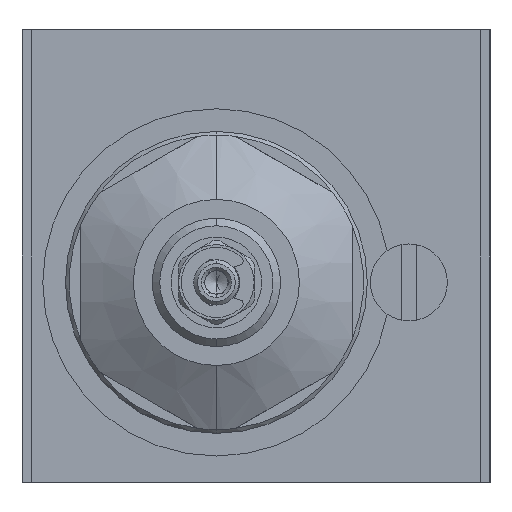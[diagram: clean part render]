
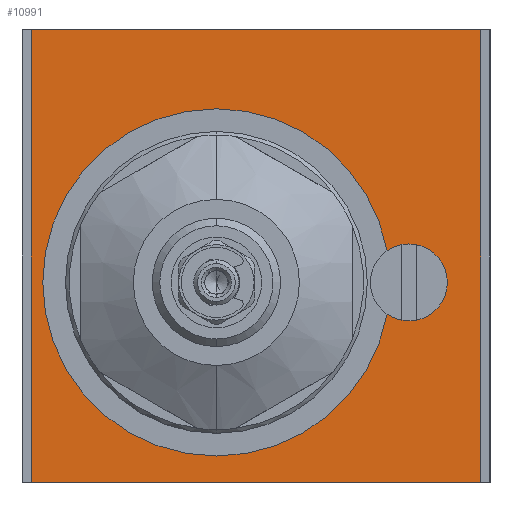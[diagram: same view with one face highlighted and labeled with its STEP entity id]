
A CAD part, left-side view. The second image highlights one B-rep face of the part: STEP entity #10991.
In plain terms, the highlighted planar face has unit normal (-1, 0, 0).
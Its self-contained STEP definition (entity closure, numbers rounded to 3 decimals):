
#553 = ORIENTED_EDGE ( 'NONE', *, *, #5311, .F. ) ;
#1000 = CARTESIAN_POINT ( 'NONE',  ( 0., 29.75, -30. ) ) ;
#1237 = VERTEX_POINT ( 'NONE', #13374 ) ;
#1316 = VERTEX_POINT ( 'NONE', #12933 ) ;
#1380 = DIRECTION ( 'NONE',  ( 0., 0., 1. ) ) ;
#1761 = CARTESIAN_POINT ( 'NONE',  ( 0., 5.25, -3.5 ) ) ;
#2071 = ORIENTED_EDGE ( 'NONE', *, *, #5808, .T. ) ;
#2167 = DIRECTION ( 'NONE',  ( 0., 0., 1. ) ) ;
#2589 = ORIENTED_EDGE ( 'NONE', *, *, #13345, .F. ) ;
#3782 = CARTESIAN_POINT ( 'NONE',  ( 0., -29.75, -30. ) ) ;
#3905 = CIRCLE ( 'NONE', #23331, 5.1 ) ;
#4190 = CARTESIAN_POINT ( 'NONE',  ( 0., -17.363, 0.704 ) ) ;
#4427 = AXIS2_PLACEMENT_3D ( 'NONE', #27954, #14687, #1380 ) ;
#4677 = DIRECTION ( 'NONE',  ( 0., 0., -1. ) ) ;
#4805 = CARTESIAN_POINT ( 'NONE',  ( 0., -20.25, -8.6 ) ) ;
#5228 = DIRECTION ( 'NONE',  ( 0., 0., -1. ) ) ;
#5229 = EDGE_CURVE ( 'NONE', #28403, #12129, #27631, .T. ) ;
#5311 = EDGE_CURVE ( 'NONE', #25185, #1237, #8472, .T. ) ;
#5631 = EDGE_CURVE ( 'NONE', #11701, #24617, #26548, .T. ) ;
#5672 = EDGE_CURVE ( 'NONE', #7556, #11054, #26310, .T. ) ;
#5720 = EDGE_CURVE ( 'NONE', #11054, #11701, #7914, .T. ) ;
#5785 = CARTESIAN_POINT ( 'NONE',  ( 0., 29.75, 30. ) ) ;
#5808 = EDGE_CURVE ( 'NONE', #24617, #7556, #25598, .T. ) ;
#6059 = CARTESIAN_POINT ( 'NONE',  ( 0., -20.25, -3.5 ) ) ;
#6303 = DIRECTION ( 'NONE',  ( -1., 0., 0. ) ) ;
#6305 = CARTESIAN_POINT ( 'NONE',  ( 0., -29.75, 30. ) ) ;
#6560 = DIRECTION ( 'NONE',  ( -1., 0., 0. ) ) ;
#6932 = CARTESIAN_POINT ( 'NONE',  ( 0., -20.25, -3.5 ) ) ;
#7006 = CIRCLE ( 'NONE', #25390, 23. ) ;
#7086 = DIRECTION ( 'NONE',  ( 0., 0., -1. ) ) ;
#7123 = CARTESIAN_POINT ( 'NONE',  ( 0., -20.25, -3.5 ) ) ;
#7361 = CARTESIAN_POINT ( 'NONE',  ( 0., 5.25, -3.5 ) ) ;
#7378 = CARTESIAN_POINT ( 'NONE',  ( 0., -29.75, 30. ) ) ;
#7556 = VERTEX_POINT ( 'NONE', #1000 ) ;
#7692 = ORIENTED_EDGE ( 'NONE', *, *, #5229, .F. ) ;
#7695 = CIRCLE ( 'NONE', #23541, 5.1 ) ;
#7882 = VECTOR ( 'NONE', #11201, 1000. ) ;
#7914 = LINE ( 'NONE', #6305, #25774 ) ;
#8416 = FACE_OUTER_BOUND ( 'NONE', #23168, .T. ) ;
#8472 = CIRCLE ( 'NONE', #19909, 23. ) ;
#8754 = FACE_BOUND ( 'NONE', #17000, .T. ) ;
#9184 = DIRECTION ( 'NONE',  ( 0., 0., -1. ) ) ;
#9312 = CARTESIAN_POINT ( 'NONE',  ( 0., 29.75, 30. ) ) ;
#9389 = DIRECTION ( 'NONE',  ( 0., 0., -1. ) ) ;
#9624 = DIRECTION ( 'NONE',  ( 0., 0., -1. ) ) ;
#9919 = DIRECTION ( 'NONE',  ( -1., 0., 0. ) ) ;
#10416 = CIRCLE ( 'NONE', #25744, 23. ) ;
#10991 = ADVANCED_FACE ( 'NONE', ( #8416, #8754 ), #18973, .F. ) ;
#11054 = VERTEX_POINT ( 'NONE', #3782 ) ;
#11201 = DIRECTION ( 'NONE',  ( 0., -1., 0. ) ) ;
#11701 = VERTEX_POINT ( 'NONE', #7378 ) ;
#12129 = VERTEX_POINT ( 'NONE', #22846 ) ;
#12933 = CARTESIAN_POINT ( 'NONE',  ( 0., 5.25, -26.5 ) ) ;
#13345 = EDGE_CURVE ( 'NONE', #1237, #1316, #10416, .T. ) ;
#13374 = CARTESIAN_POINT ( 'NONE',  ( 0., 5.25, 19.5 ) ) ;
#13391 = EDGE_CURVE ( 'NONE', #1316, #15025, #7006, .T. ) ;
#13696 = EDGE_CURVE ( 'NONE', #12129, #25185, #7695, .T. ) ;
#13742 = EDGE_CURVE ( 'NONE', #15025, #28403, #3905, .T. ) ;
#14687 = DIRECTION ( 'NONE',  ( 1., 0., 0. ) ) ;
#15025 = VERTEX_POINT ( 'NONE', #17363 ) ;
#17000 = EDGE_LOOP ( 'NONE', ( #22229, #22294, #2589, #553, #22918, #7692 ) ) ;
#17146 = DIRECTION ( 'NONE',  ( 0., 1., 0. ) ) ;
#17363 = CARTESIAN_POINT ( 'NONE',  ( 0., -17.363, -7.704 ) ) ;
#18973 = PLANE ( 'NONE',  #4427 ) ;
#19524 = CARTESIAN_POINT ( 'NONE',  ( 0., 29.75, 30. ) ) ;
#19909 = AXIS2_PLACEMENT_3D ( 'NONE', #1761, #6303, #5228 ) ;
#19999 = AXIS2_PLACEMENT_3D ( 'NONE', #6059, #6560, #7086 ) ;
#21897 = ORIENTED_EDGE ( 'NONE', *, *, #5720, .T. ) ;
#22229 = ORIENTED_EDGE ( 'NONE', *, *, #13742, .F. ) ;
#22294 = ORIENTED_EDGE ( 'NONE', *, *, #13391, .F. ) ;
#22540 = DIRECTION ( 'NONE',  ( -1., 0., 0. ) ) ;
#22727 = DIRECTION ( 'NONE',  ( -1., 0., 0. ) ) ;
#22846 = CARTESIAN_POINT ( 'NONE',  ( 0., -20.25, 1.6 ) ) ;
#22918 = ORIENTED_EDGE ( 'NONE', *, *, #13696, .F. ) ;
#22952 = DIRECTION ( 'NONE',  ( -1., 0., 0. ) ) ;
#23168 = EDGE_LOOP ( 'NONE', ( #25614, #21897, #24520, #2071 ) ) ;
#23228 = CARTESIAN_POINT ( 'NONE',  ( 0., 5.25, -3.5 ) ) ;
#23331 = AXIS2_PLACEMENT_3D ( 'NONE', #7123, #22727, #9389 ) ;
#23541 = AXIS2_PLACEMENT_3D ( 'NONE', #6932, #22540, #9184 ) ;
#24009 = CARTESIAN_POINT ( 'NONE',  ( 0., 29.75, -30. ) ) ;
#24520 = ORIENTED_EDGE ( 'NONE', *, *, #5631, .T. ) ;
#24617 = VERTEX_POINT ( 'NONE', #19524 ) ;
#25185 = VERTEX_POINT ( 'NONE', #4190 ) ;
#25390 = AXIS2_PLACEMENT_3D ( 'NONE', #23228, #9919, #25438 ) ;
#25438 = DIRECTION ( 'NONE',  ( 0., 0., -1. ) ) ;
#25598 = LINE ( 'NONE', #5785, #26062 ) ;
#25614 = ORIENTED_EDGE ( 'NONE', *, *, #5672, .T. ) ;
#25744 = AXIS2_PLACEMENT_3D ( 'NONE', #7361, #22952, #9624 ) ;
#25774 = VECTOR ( 'NONE', #2167, 1000. ) ;
#26062 = VECTOR ( 'NONE', #4677, 1000. ) ;
#26310 = LINE ( 'NONE', #24009, #7882 ) ;
#26402 = VECTOR ( 'NONE', #17146, 1000. ) ;
#26548 = LINE ( 'NONE', #9312, #26402 ) ;
#27631 = CIRCLE ( 'NONE', #19999, 5.1 ) ;
#27954 = CARTESIAN_POINT ( 'NONE',  ( 0., -29.75, -30. ) ) ;
#28403 = VERTEX_POINT ( 'NONE', #4805 ) ;
